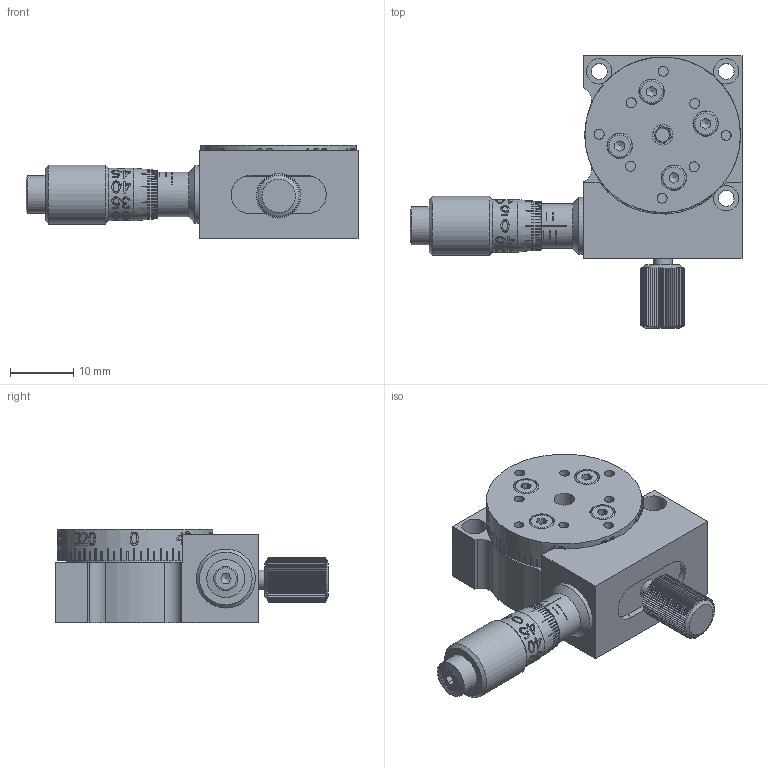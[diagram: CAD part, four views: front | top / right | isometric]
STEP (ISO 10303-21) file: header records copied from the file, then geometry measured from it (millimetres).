
FILE_DESCRIPTION(/* description */ (''),/* implementation_level */ '2;1');
FILE_NAME(/* name */ 'U:\KONSTRUKTORIAI\DOKUMENTACIJA\7\7R128\STEP\7R128-9S35-5BL SB.stp',/* time_stamp */ '2018-06-11T15:22:36+03:00',/* author */ ('dsgn32'),/* organization */ (''),/* preprocessor_version */ 'ST-DEVELOPER v15.2',/* originating_system */ 'Autodesk Inventor 2014',/* authorisation */ '');
FILE_SCHEMA (('AUTOMOTIVE_DESIGN { 1 0 10303 214 3 1 1 }'));
Products named in the file (1): 7R128-9S35-5BL SB_Shrinkwrap_1
Bounding box: 52.31 x 43 x 14.8 mm (x, y, z)
Volume: 11401.9 mm3; surface area: 8370.2 mm2
Topology: 2 solids, 11 shells, 1633 faces, 4545 edges, 3027 vertices
Faces by surface type: plane 901, bspline 430, cylinder 269, cone 24, torus 9
Full cylindrical faces by diameter (mm): 1.567 x8, 2 x5, 2.1 x1, 2.2 x4, 2.459 x2, 2.5 x4, 3 x1, 3.242 x1, 3.3 x1, 3.5 x2, 3.8 x5, 4 x8, 4.5 x2, 5 x1, 5.5 x1, 5.8 x1, 6 x4, 7 x1, 7.3 x1, 8 x1, 8.3 x1, 9 x1, 9.3 x1, 11 x1, 18 x1, 24.5 x1
Entity records: 82693 total; most frequent: CARTESIAN_POINT 44451, ORIENTED_EDGE 8764, DIRECTION 6102, EDGE_CURVE 4382, VERTEX_POINT 2965, LINE 2188, VECTOR 2188, AXIS2_PLACEMENT_3D 1957
